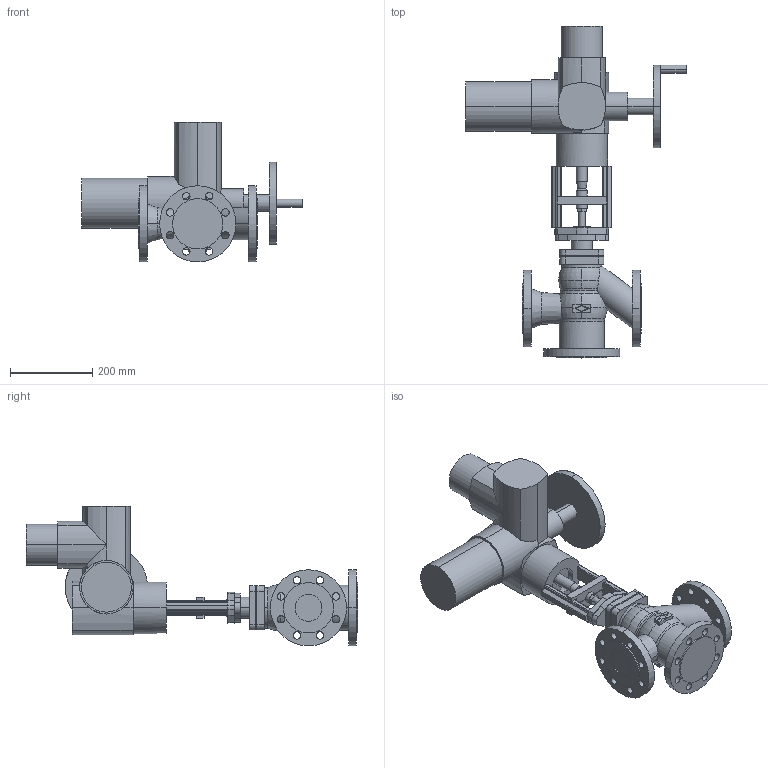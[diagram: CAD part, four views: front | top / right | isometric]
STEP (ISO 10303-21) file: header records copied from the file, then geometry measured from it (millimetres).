
FILE_DESCRIPTION(('OneSpaceDesigner STEP Export'),'2;1');
FILE_NAME('c000003176.stp','2007-01-24T11:02:30',(''),(''),'OneSpace Designer STEP processor for AP214 (Solid Model)','OneSpace Designer 14.00B 27-May-2006 (C) CoCreate Software GmbH','');
FILE_SCHEMA(('AUTOMOTIVE_DESIGN { 1 0 10303 214 1 1 1 1 }'));
Length unit declared in the file: millimetre
Products named in the file (2): 1; 2
Bounding box: 536 x 805.5 x 339.5 mm (x, y, z)
Volume: 15431197.7 mm3; surface area: 864688.3 mm2
Topology: 2 solids, 2 shells, 325 faces, 846 edges, 543 vertices
Faces by surface type: cylinder 168, plane 131, torus 18, cone 8
Entity records: 9393 total; most frequent: CARTESIAN_POINT 2025, ORIENTED_EDGE 1692, DIRECTION 1332, EDGE_CURVE 846, VERTEX_POINT 543, AXIS2_PLACEMENT_3D 460, VECTOR 412, LINE 412
